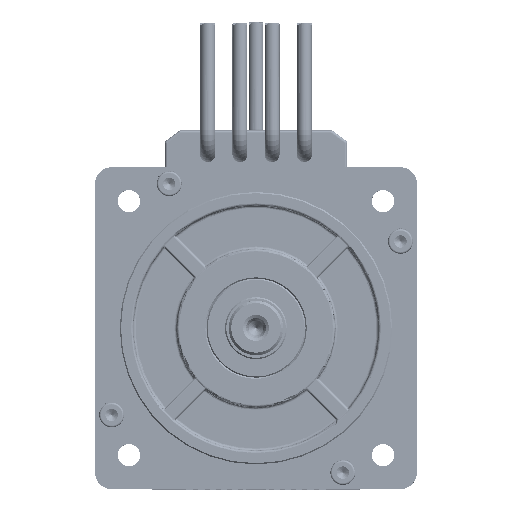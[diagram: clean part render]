
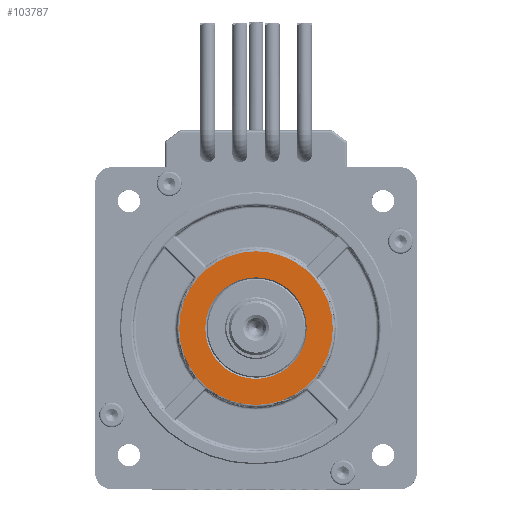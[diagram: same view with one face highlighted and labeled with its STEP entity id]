
A CAD part, top view. The second image highlights one B-rep face of the part: STEP entity #103787.
In plain terms, the highlighted planar face has unit normal (0, 0, 1).
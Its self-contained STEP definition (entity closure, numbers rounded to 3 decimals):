
#88 = ORIENTED_EDGE ( 'NONE', *, *, #20591, .T. ) ;
#6677 = VERTEX_POINT ( 'NONE', #13102 ) ;
#7677 = DIRECTION ( 'NONE',  ( 0., 0., 1. ) ) ;
#10772 = AXIS2_PLACEMENT_3D ( 'NONE', #25157, #65084, #33931 ) ;
#13102 = CARTESIAN_POINT ( 'NONE',  ( 0., 31., 84. ) ) ;
#13719 = DIRECTION ( 'NONE',  ( 0., 0., -1. ) ) ;
#19305 = VERTEX_POINT ( 'NONE', #98757 ) ;
#20591 = EDGE_CURVE ( 'NONE', #19305, #101544, #42464, .T. ) ;
#25157 = CARTESIAN_POINT ( 'NONE',  ( 0., 0., 84. ) ) ;
#29457 = AXIS2_PLACEMENT_3D ( 'NONE', #94436, #13719, #33455 ) ;
#32687 = AXIS2_PLACEMENT_3D ( 'NONE', #68248, #7677, #47596 ) ;
#33455 = DIRECTION ( 'NONE',  ( 0., -1., 0. ) ) ;
#33931 = DIRECTION ( 'NONE',  ( 0., -1., 0. ) ) ;
#35375 = DIRECTION ( 'NONE',  ( 0., -1., 0. ) ) ;
#36254 = DIRECTION ( 'NONE',  ( 0., 0., 1. ) ) ;
#42240 = DIRECTION ( 'NONE',  ( 0., 0., -1. ) ) ;
#42464 = CIRCLE ( 'NONE', #66001, 20.5 ) ;
#45981 = CIRCLE ( 'NONE', #32687, 31. ) ;
#47596 = DIRECTION ( 'NONE',  ( 0., -1., 0. ) ) ;
#51189 = EDGE_LOOP ( 'NONE', ( #74248, #83741 ) ) ;
#53548 = FACE_OUTER_BOUND ( 'NONE', #51189, .T. ) ;
#54083 = CARTESIAN_POINT ( 'NONE',  ( 0., 0., 84. ) ) ;
#55776 = EDGE_LOOP ( 'NONE', ( #89953, #88 ) ) ;
#65084 = DIRECTION ( 'NONE',  ( 0., 0., -1. ) ) ;
#66001 = AXIS2_PLACEMENT_3D ( 'NONE', #54083, #42240, #93181 ) ;
#68248 = CARTESIAN_POINT ( 'NONE',  ( 0., 0., 84. ) ) ;
#73867 = PLANE ( 'NONE',  #29457 ) ;
#74248 = ORIENTED_EDGE ( 'NONE', *, *, #119082, .T. ) ;
#78699 = FACE_BOUND ( 'NONE', #55776, .T. ) ;
#83741 = ORIENTED_EDGE ( 'NONE', *, *, #102471, .T. ) ;
#86273 = VERTEX_POINT ( 'NONE', #90938 ) ;
#89953 = ORIENTED_EDGE ( 'NONE', *, *, #129794, .T. ) ;
#90938 = CARTESIAN_POINT ( 'NONE',  ( 0., -31., 84. ) ) ;
#93181 = DIRECTION ( 'NONE',  ( 0., -1., 0. ) ) ;
#94436 = CARTESIAN_POINT ( 'NONE',  ( 58.113, -58.113, 84. ) ) ;
#95483 = CARTESIAN_POINT ( 'NONE',  ( 0., 0., 84. ) ) ;
#98757 = CARTESIAN_POINT ( 'NONE',  ( 0., -20.5, 84. ) ) ;
#101544 = VERTEX_POINT ( 'NONE', #101813 ) ;
#101813 = CARTESIAN_POINT ( 'NONE',  ( 0., 20.5, 84. ) ) ;
#102471 = EDGE_CURVE ( 'NONE', #6677, #86273, #45981, .T. ) ;
#103787 = ADVANCED_FACE ( 'NONE', ( #53548, #78699 ), #73867, .F. ) ;
#108061 = AXIS2_PLACEMENT_3D ( 'NONE', #95483, #36254, #35375 ) ;
#114531 = CIRCLE ( 'NONE', #10772, 20.5 ) ;
#119082 = EDGE_CURVE ( 'NONE', #86273, #6677, #120243, .T. ) ;
#120243 = CIRCLE ( 'NONE', #108061, 31. ) ;
#129794 = EDGE_CURVE ( 'NONE', #101544, #19305, #114531, .T. ) ;
